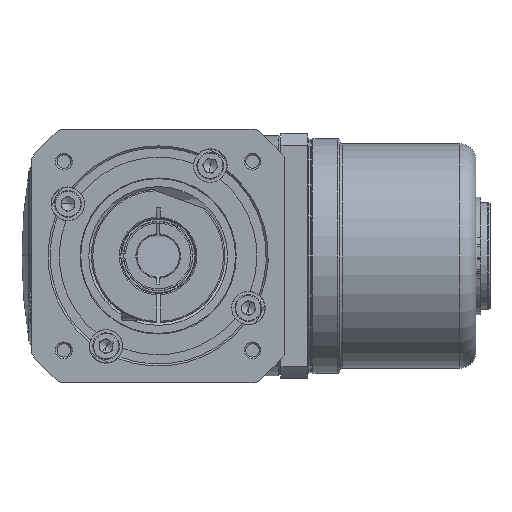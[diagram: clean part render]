
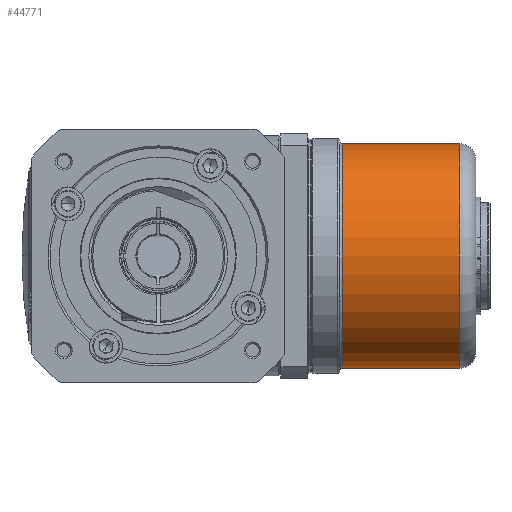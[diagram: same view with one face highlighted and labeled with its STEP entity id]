
A CAD part, front view. The second image highlights one B-rep face of the part: STEP entity #44771.
In plain terms, the highlighted cylindrical face has radius 42 mm (diameter 84 mm), a partial arc.
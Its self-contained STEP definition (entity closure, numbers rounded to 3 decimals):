
#1281 = CIRCLE ( 'NONE', #7241, 42. ) ;
#2696 = EDGE_CURVE ( 'NONE', #3980, #14119, #1281, .T. ) ;
#2809 = LINE ( 'NONE', #32083, #25780 ) ;
#3338 = FACE_OUTER_BOUND ( 'NONE', #8471, .T. ) ;
#3564 = DIRECTION ( 'NONE',  ( 0., 0., -1. ) ) ;
#3980 = VERTEX_POINT ( 'NONE', #5177 ) ;
#4486 = DIRECTION ( 'NONE',  ( 1., 0., 0. ) ) ;
#5177 = CARTESIAN_POINT ( 'NONE',  ( 113., 0., -42. ) ) ;
#7241 = AXIS2_PLACEMENT_3D ( 'NONE', #34399, #45419, #24107 ) ;
#8404 = EDGE_CURVE ( 'NONE', #17926, #14119, #16642, .T. ) ;
#8471 = EDGE_LOOP ( 'NONE', ( #43897, #29077, #41563, #16138 ) ) ;
#8676 = CARTESIAN_POINT ( 'NONE',  ( 113., 0., 42. ) ) ;
#10822 = VECTOR ( 'NONE', #19703, 1000. ) ;
#12946 = VERTEX_POINT ( 'NONE', #34127 ) ;
#14119 = VERTEX_POINT ( 'NONE', #8676 ) ;
#16138 = ORIENTED_EDGE ( 'NONE', *, *, #2696, .T. ) ;
#16642 = LINE ( 'NONE', #30243, #10822 ) ;
#17926 = VERTEX_POINT ( 'NONE', #27651 ) ;
#18883 = EDGE_CURVE ( 'NONE', #12946, #3980, #2809, .T. ) ;
#19147 = AXIS2_PLACEMENT_3D ( 'NONE', #26555, #4486, #29839 ) ;
#19703 = DIRECTION ( 'NONE',  ( 1., 0., 0. ) ) ;
#21417 = DIRECTION ( 'NONE',  ( 1., 0., 0. ) ) ;
#22139 = CIRCLE ( 'NONE', #19147, 42. ) ;
#24107 = DIRECTION ( 'NONE',  ( 0., 0., -1. ) ) ;
#25780 = VECTOR ( 'NONE', #38363, 1000. ) ;
#26555 = CARTESIAN_POINT ( 'NONE',  ( 69., 0., 0. ) ) ;
#27651 = CARTESIAN_POINT ( 'NONE',  ( 69., 0., 42. ) ) ;
#28408 = CARTESIAN_POINT ( 'NONE',  ( 68., 0., 0. ) ) ;
#29077 = ORIENTED_EDGE ( 'NONE', *, *, #41019, .T. ) ;
#29839 = DIRECTION ( 'NONE',  ( 0., 0., -1. ) ) ;
#30243 = CARTESIAN_POINT ( 'NONE',  ( 68., 0., 42. ) ) ;
#31326 = AXIS2_PLACEMENT_3D ( 'NONE', #28408, #21417, #3564 ) ;
#32083 = CARTESIAN_POINT ( 'NONE',  ( 68., 0., -42. ) ) ;
#34127 = CARTESIAN_POINT ( 'NONE',  ( 69., 0., -42. ) ) ;
#34399 = CARTESIAN_POINT ( 'NONE',  ( 113., 0., 0. ) ) ;
#35188 = CYLINDRICAL_SURFACE ( 'NONE', #31326, 42. ) ;
#38363 = DIRECTION ( 'NONE',  ( 1., 0., 0. ) ) ;
#41019 = EDGE_CURVE ( 'NONE', #17926, #12946, #22139, .T. ) ;
#41563 = ORIENTED_EDGE ( 'NONE', *, *, #18883, .T. ) ;
#43897 = ORIENTED_EDGE ( 'NONE', *, *, #8404, .F. ) ;
#44771 = ADVANCED_FACE ( 'NONE', ( #3338 ), #35188, .T. ) ;
#45419 = DIRECTION ( 'NONE',  ( -1., 0., 0. ) ) ;
